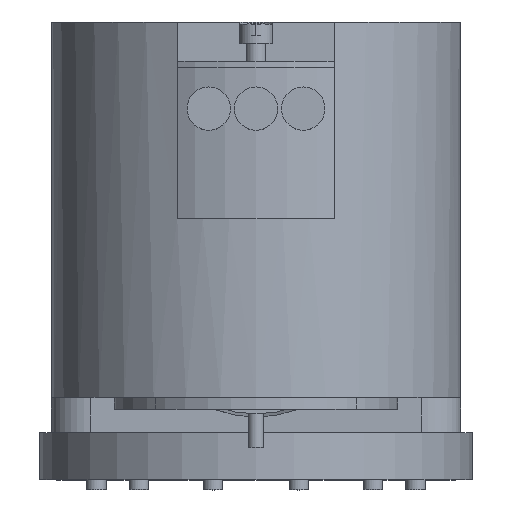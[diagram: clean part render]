
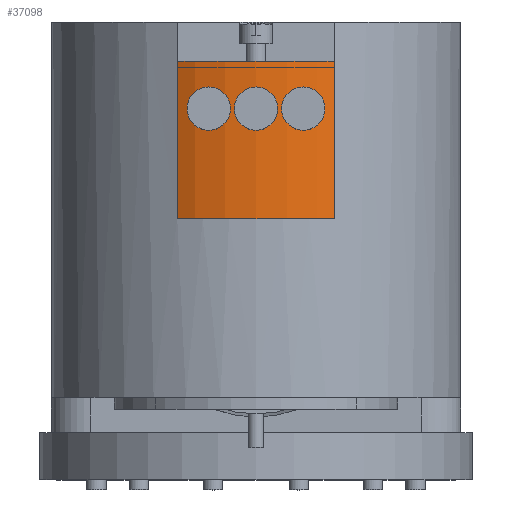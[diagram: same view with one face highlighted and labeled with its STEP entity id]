
A CAD part, top view. The second image highlights one B-rep face of the part: STEP entity #37098.
In plain terms, the highlighted cylindrical face has radius 45 mm (diameter 90 mm), a full revolution.
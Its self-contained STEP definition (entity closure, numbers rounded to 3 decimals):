
#37098 = ADVANCED_FACE('',(#37099),#37112,.T.);
#37099 = FACE_BOUND('',#37100,.T.);
#37100 = EDGE_LOOP('',(#37101,#37135,#37158,#37185));
#37101 = ORIENTED_EDGE('',*,*,#37102,.F.);
#37102 = EDGE_CURVE('',#37103,#37103,#37105,.T.);
#37103 = VERTEX_POINT('',#37104);
#37104 = CARTESIAN_POINT('',(0.,40.,745.));
#37105 = SURFACE_CURVE('',#37106,(#37111,#37123),.PCURVE_S1.);
#37106 = CIRCLE('',#37107,45.);
#37107 = AXIS2_PLACEMENT_3D('',#37108,#37109,#37110);
#37108 = CARTESIAN_POINT('',(0.,40.,700.));
#37109 = DIRECTION('',(0.,-1.,0.));
#37110 = DIRECTION('',(0.,0.,1.));
#37111 = PCURVE('',#37112,#37117);
#37112 = CYLINDRICAL_SURFACE('',#37113,45.);
#37113 = AXIS2_PLACEMENT_3D('',#37114,#37115,#37116);
#37114 = CARTESIAN_POINT('',(0.,125.3,700.));
#37115 = DIRECTION('',(0.,-1.,0.));
#37116 = DIRECTION('',(0.,0.,1.));
#37117 = DEFINITIONAL_REPRESENTATION('',(#37118),#37122);
#37118 = LINE('',#37119,#37120);
#37119 = CARTESIAN_POINT('',(0.,85.3));
#37120 = VECTOR('',#37121,1.);
#37121 = DIRECTION('',(1.,0.));
#37122 = ( GEOMETRIC_REPRESENTATION_CONTEXT(2) 
PARAMETRIC_REPRESENTATION_CONTEXT() REPRESENTATION_CONTEXT('2D SPACE',''
  ) );
#37123 = PCURVE('',#37124,#37129);
#37124 = PLANE('',#37125);
#37125 = AXIS2_PLACEMENT_3D('',#37126,#37127,#37128);
#37126 = CARTESIAN_POINT('',(0.,40.,700.));
#37127 = DIRECTION('',(0.,-1.,0.));
#37128 = DIRECTION('',(0.,0.,1.));
#37129 = DEFINITIONAL_REPRESENTATION('',(#37130),#37134);
#37130 = CIRCLE('',#37131,45.);
#37131 = AXIS2_PLACEMENT_2D('',#37132,#37133);
#37132 = CARTESIAN_POINT('',(0.,0.));
#37133 = DIRECTION('',(1.,0.));
#37134 = ( GEOMETRIC_REPRESENTATION_CONTEXT(2) 
PARAMETRIC_REPRESENTATION_CONTEXT() REPRESENTATION_CONTEXT('2D SPACE',''
  ) );
#37135 = ORIENTED_EDGE('',*,*,#37136,.F.);
#37136 = EDGE_CURVE('',#37137,#37103,#37139,.T.);
#37137 = VERTEX_POINT('',#37138);
#37138 = CARTESIAN_POINT('',(0.,125.3,745.));
#37139 = SEAM_CURVE('',#37140,(#37144,#37151),.PCURVE_S1.);
#37140 = LINE('',#37141,#37142);
#37141 = CARTESIAN_POINT('',(0.,125.3,745.));
#37142 = VECTOR('',#37143,1.);
#37143 = DIRECTION('',(0.,-1.,0.));
#37144 = PCURVE('',#37112,#37145);
#37145 = DEFINITIONAL_REPRESENTATION('',(#37146),#37150);
#37146 = LINE('',#37147,#37148);
#37147 = CARTESIAN_POINT('',(6.283,-0.));
#37148 = VECTOR('',#37149,1.);
#37149 = DIRECTION('',(0.,1.));
#37150 = ( GEOMETRIC_REPRESENTATION_CONTEXT(2) 
PARAMETRIC_REPRESENTATION_CONTEXT() REPRESENTATION_CONTEXT('2D SPACE',''
  ) );
#37151 = PCURVE('',#37112,#37152);
#37152 = DEFINITIONAL_REPRESENTATION('',(#37153),#37157);
#37153 = LINE('',#37154,#37155);
#37154 = CARTESIAN_POINT('',(0.,-0.));
#37155 = VECTOR('',#37156,1.);
#37156 = DIRECTION('',(0.,1.));
#37157 = ( GEOMETRIC_REPRESENTATION_CONTEXT(2) 
PARAMETRIC_REPRESENTATION_CONTEXT() REPRESENTATION_CONTEXT('2D SPACE',''
  ) );
#37158 = ORIENTED_EDGE('',*,*,#37159,.T.);
#37159 = EDGE_CURVE('',#37137,#37137,#37160,.T.);
#37160 = SURFACE_CURVE('',#37161,(#37166,#37173),.PCURVE_S1.);
#37161 = CIRCLE('',#37162,45.);
#37162 = AXIS2_PLACEMENT_3D('',#37163,#37164,#37165);
#37163 = CARTESIAN_POINT('',(0.,125.3,700.));
#37164 = DIRECTION('',(0.,-1.,0.));
#37165 = DIRECTION('',(0.,0.,1.));
#37166 = PCURVE('',#37112,#37167);
#37167 = DEFINITIONAL_REPRESENTATION('',(#37168),#37172);
#37168 = LINE('',#37169,#37170);
#37169 = CARTESIAN_POINT('',(0.,0.));
#37170 = VECTOR('',#37171,1.);
#37171 = DIRECTION('',(1.,0.));
#37172 = ( GEOMETRIC_REPRESENTATION_CONTEXT(2) 
PARAMETRIC_REPRESENTATION_CONTEXT() REPRESENTATION_CONTEXT('2D SPACE',''
  ) );
#37173 = PCURVE('',#37174,#37179);
#37174 = PLANE('',#37175);
#37175 = AXIS2_PLACEMENT_3D('',#37176,#37177,#37178);
#37176 = CARTESIAN_POINT('',(0.,125.3,700.));
#37177 = DIRECTION('',(0.,-1.,0.));
#37178 = DIRECTION('',(0.,0.,1.));
#37179 = DEFINITIONAL_REPRESENTATION('',(#37180),#37184);
#37180 = CIRCLE('',#37181,45.);
#37181 = AXIS2_PLACEMENT_2D('',#37182,#37183);
#37182 = CARTESIAN_POINT('',(0.,0.));
#37183 = DIRECTION('',(1.,0.));
#37184 = ( GEOMETRIC_REPRESENTATION_CONTEXT(2) 
PARAMETRIC_REPRESENTATION_CONTEXT() REPRESENTATION_CONTEXT('2D SPACE',''
  ) );
#37185 = ORIENTED_EDGE('',*,*,#37136,.T.);
